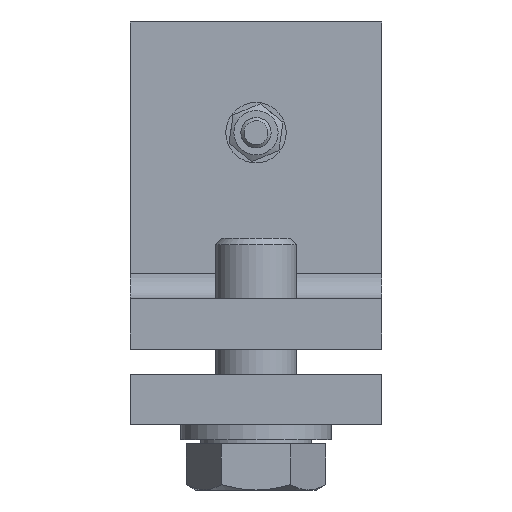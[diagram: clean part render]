
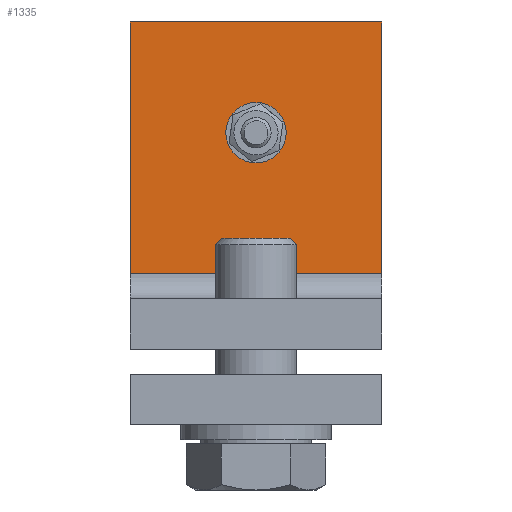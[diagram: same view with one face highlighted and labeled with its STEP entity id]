
A CAD part, left-side view. The second image highlights one B-rep face of the part: STEP entity #1335.
In plain terms, the highlighted planar face has unit normal (-1, 0, 0) as drawn and (0, -1, 0) by its records, which use the part's own axes.
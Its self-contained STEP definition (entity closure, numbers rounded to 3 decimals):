
#158=LINE('',#2078,#224);
#170=LINE('',#2112,#236);
#171=LINE('',#2114,#237);
#172=LINE('',#2115,#238);
#224=VECTOR('',#1660,50.);
#236=VECTOR('',#1698,50.002);
#237=VECTOR('',#1699,50.);
#238=VECTOR('',#1700,50.002);
#287=PLANE('',#1455);
#340=FACE_BOUND('',#509,.T.);
#399=FACE_OUTER_BOUND('',#508,.T.);
#508=EDGE_LOOP('',(#1045,#1046,#1047,#1048));
#509=EDGE_LOOP('',(#1049));
#627=CIRCLE('',#1434,3.5);
#697=VERTEX_POINT('',#2055);
#699=VERTEX_POINT('',#2060);
#704=VERTEX_POINT('',#2070);
#715=VERTEX_POINT('',#2111);
#716=VERTEX_POINT('',#2113);
#819=EDGE_CURVE('',#697,#697,#627,.T.);
#829=EDGE_CURVE('',#699,#704,#158,.T.);
#845=EDGE_CURVE('',#715,#704,#170,.T.);
#846=EDGE_CURVE('',#716,#715,#171,.T.);
#847=EDGE_CURVE('',#699,#716,#172,.T.);
#1045=ORIENTED_EDGE('',*,*,#829,.T.);
#1046=ORIENTED_EDGE('',*,*,#845,.F.);
#1047=ORIENTED_EDGE('',*,*,#846,.F.);
#1048=ORIENTED_EDGE('',*,*,#847,.F.);
#1049=ORIENTED_EDGE('',*,*,#819,.T.);
#1335=ADVANCED_FACE('',(#399,#340),#287,.T.);
#1434=AXIS2_PLACEMENT_3D('',#2056,#1638,#1639);
#1455=AXIS2_PLACEMENT_3D('',#2110,#1696,#1697);
#1638=DIRECTION('center_axis',(0.,1.,0.));
#1639=DIRECTION('ref_axis',(1.,0.,0.));
#1660=DIRECTION('',(1.,0.,0.));
#1696=DIRECTION('center_axis',(0.,-1.,0.));
#1697=DIRECTION('ref_axis',(1.,0.,0.));
#1698=DIRECTION('',(0.,0.,-1.));
#1699=DIRECTION('',(1.,0.,0.));
#1700=DIRECTION('',(0.,0.,1.));
#2055=CARTESIAN_POINT('',(3.5,120.,43.002));
#2056=CARTESIAN_POINT('Origin',(0.,120.,43.002));
#2060=CARTESIAN_POINT('',(-25.,120.,15.));
#2070=CARTESIAN_POINT('',(25.,120.,15.));
#2078=CARTESIAN_POINT('',(-12.5,120.,15.));
#2110=CARTESIAN_POINT('Origin',(0.,120.,-22.498));
#2111=CARTESIAN_POINT('',(25.,120.,65.002));
#2112=CARTESIAN_POINT('',(25.,120.,65.002));
#2113=CARTESIAN_POINT('',(-25.,120.,65.002));
#2114=CARTESIAN_POINT('',(-25.,120.,65.002));
#2115=CARTESIAN_POINT('',(-25.,120.,-109.998));
